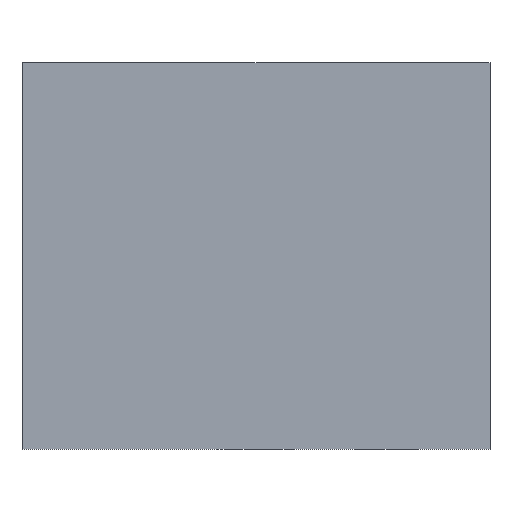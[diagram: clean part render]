
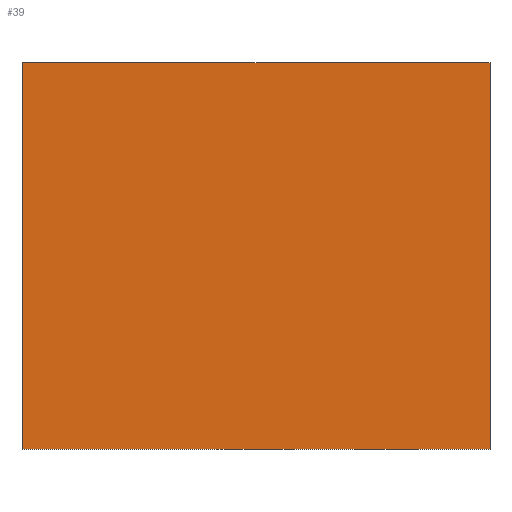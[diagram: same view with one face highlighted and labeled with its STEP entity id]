
A CAD part, front view. The second image highlights one B-rep face of the part: STEP entity #39.
In plain terms, the highlighted planar face has unit normal (0, -1, 0).
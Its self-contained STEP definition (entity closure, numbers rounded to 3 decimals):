
#39 = ADVANCED_FACE('',(#40),#54,.F.);
#40 = FACE_BOUND('',#41,.F.);
#41 = EDGE_LOOP('',(#42,#77,#105,#133));
#42 = ORIENTED_EDGE('',*,*,#43,.T.);
#43 = EDGE_CURVE('',#44,#46,#48,.T.);
#44 = VERTEX_POINT('',#45);
#45 = CARTESIAN_POINT('',(0.,0.,0.));
#46 = VERTEX_POINT('',#47);
#47 = CARTESIAN_POINT('',(0.,0.,22.3));
#48 = SURFACE_CURVE('',#49,(#53,#65),.PCURVE_S1.);
#49 = LINE('',#50,#51);
#50 = CARTESIAN_POINT('',(0.,0.,0.));
#51 = VECTOR('',#52,1.);
#52 = DIRECTION('',(0.,0.,1.));
#53 = PCURVE('',#54,#59);
#54 = PLANE('',#55);
#55 = AXIS2_PLACEMENT_3D('',#56,#57,#58);
#56 = CARTESIAN_POINT('',(0.,0.,0.));
#57 = DIRECTION('',(0.,1.,0.));
#58 = DIRECTION('',(1.,0.,0.));
#59 = DEFINITIONAL_REPRESENTATION('',(#60),#64);
#60 = LINE('',#61,#62);
#61 = CARTESIAN_POINT('',(0.,0.));
#62 = VECTOR('',#63,1.);
#63 = DIRECTION('',(0.,-1.));
#64 = ( GEOMETRIC_REPRESENTATION_CONTEXT(2) 
PARAMETRIC_REPRESENTATION_CONTEXT() REPRESENTATION_CONTEXT('2D SPACE',''
  ) );
#65 = PCURVE('',#66,#71);
#66 = PLANE('',#67);
#67 = AXIS2_PLACEMENT_3D('',#68,#69,#70);
#68 = CARTESIAN_POINT('',(0.,17.,0.));
#69 = DIRECTION('',(1.,0.,0.));
#70 = DIRECTION('',(0.,-1.,0.));
#71 = DEFINITIONAL_REPRESENTATION('',(#72),#76);
#72 = LINE('',#73,#74);
#73 = CARTESIAN_POINT('',(17.,0.));
#74 = VECTOR('',#75,1.);
#75 = DIRECTION('',(0.,-1.));
#76 = ( GEOMETRIC_REPRESENTATION_CONTEXT(2) 
PARAMETRIC_REPRESENTATION_CONTEXT() REPRESENTATION_CONTEXT('2D SPACE',''
  ) );
#77 = ORIENTED_EDGE('',*,*,#78,.T.);
#78 = EDGE_CURVE('',#46,#79,#81,.T.);
#79 = VERTEX_POINT('',#80);
#80 = CARTESIAN_POINT('',(27.,0.,22.3));
#81 = SURFACE_CURVE('',#82,(#86,#93),.PCURVE_S1.);
#82 = LINE('',#83,#84);
#83 = CARTESIAN_POINT('',(0.,0.,22.3));
#84 = VECTOR('',#85,1.);
#85 = DIRECTION('',(1.,0.,0.));
#86 = PCURVE('',#54,#87);
#87 = DEFINITIONAL_REPRESENTATION('',(#88),#92);
#88 = LINE('',#89,#90);
#89 = CARTESIAN_POINT('',(0.,-22.3));
#90 = VECTOR('',#91,1.);
#91 = DIRECTION('',(1.,0.));
#92 = ( GEOMETRIC_REPRESENTATION_CONTEXT(2) 
PARAMETRIC_REPRESENTATION_CONTEXT() REPRESENTATION_CONTEXT('2D SPACE',''
  ) );
#93 = PCURVE('',#94,#99);
#94 = PLANE('',#95);
#95 = AXIS2_PLACEMENT_3D('',#96,#97,#98);
#96 = CARTESIAN_POINT('',(13.5,8.5,22.3));
#97 = DIRECTION('',(0.,0.,1.));
#98 = DIRECTION('',(1.,0.,0.));
#99 = DEFINITIONAL_REPRESENTATION('',(#100),#104);
#100 = LINE('',#101,#102);
#101 = CARTESIAN_POINT('',(-13.5,-8.5));
#102 = VECTOR('',#103,1.);
#103 = DIRECTION('',(1.,0.));
#104 = ( GEOMETRIC_REPRESENTATION_CONTEXT(2) 
PARAMETRIC_REPRESENTATION_CONTEXT() REPRESENTATION_CONTEXT('2D SPACE',''
  ) );
#105 = ORIENTED_EDGE('',*,*,#106,.F.);
#106 = EDGE_CURVE('',#107,#79,#109,.T.);
#107 = VERTEX_POINT('',#108);
#108 = CARTESIAN_POINT('',(27.,0.,0.));
#109 = SURFACE_CURVE('',#110,(#114,#121),.PCURVE_S1.);
#110 = LINE('',#111,#112);
#111 = CARTESIAN_POINT('',(27.,0.,0.));
#112 = VECTOR('',#113,1.);
#113 = DIRECTION('',(0.,0.,1.));
#114 = PCURVE('',#54,#115);
#115 = DEFINITIONAL_REPRESENTATION('',(#116),#120);
#116 = LINE('',#117,#118);
#117 = CARTESIAN_POINT('',(27.,0.));
#118 = VECTOR('',#119,1.);
#119 = DIRECTION('',(0.,-1.));
#120 = ( GEOMETRIC_REPRESENTATION_CONTEXT(2) 
PARAMETRIC_REPRESENTATION_CONTEXT() REPRESENTATION_CONTEXT('2D SPACE',''
  ) );
#121 = PCURVE('',#122,#127);
#122 = PLANE('',#123);
#123 = AXIS2_PLACEMENT_3D('',#124,#125,#126);
#124 = CARTESIAN_POINT('',(27.,0.,0.));
#125 = DIRECTION('',(-1.,0.,0.));
#126 = DIRECTION('',(0.,1.,0.));
#127 = DEFINITIONAL_REPRESENTATION('',(#128),#132);
#128 = LINE('',#129,#130);
#129 = CARTESIAN_POINT('',(0.,0.));
#130 = VECTOR('',#131,1.);
#131 = DIRECTION('',(0.,-1.));
#132 = ( GEOMETRIC_REPRESENTATION_CONTEXT(2) 
PARAMETRIC_REPRESENTATION_CONTEXT() REPRESENTATION_CONTEXT('2D SPACE',''
  ) );
#133 = ORIENTED_EDGE('',*,*,#134,.F.);
#134 = EDGE_CURVE('',#44,#107,#135,.T.);
#135 = SURFACE_CURVE('',#136,(#140,#147),.PCURVE_S1.);
#136 = LINE('',#137,#138);
#137 = CARTESIAN_POINT('',(0.,0.,0.));
#138 = VECTOR('',#139,1.);
#139 = DIRECTION('',(1.,0.,0.));
#140 = PCURVE('',#54,#141);
#141 = DEFINITIONAL_REPRESENTATION('',(#142),#146);
#142 = LINE('',#143,#144);
#143 = CARTESIAN_POINT('',(0.,0.));
#144 = VECTOR('',#145,1.);
#145 = DIRECTION('',(1.,0.));
#146 = ( GEOMETRIC_REPRESENTATION_CONTEXT(2) 
PARAMETRIC_REPRESENTATION_CONTEXT() REPRESENTATION_CONTEXT('2D SPACE',''
  ) );
#147 = PCURVE('',#148,#153);
#148 = PLANE('',#149);
#149 = AXIS2_PLACEMENT_3D('',#150,#151,#152);
#150 = CARTESIAN_POINT('',(13.5,8.5,0.));
#151 = DIRECTION('',(0.,0.,1.));
#152 = DIRECTION('',(1.,0.,0.));
#153 = DEFINITIONAL_REPRESENTATION('',(#154),#158);
#154 = LINE('',#155,#156);
#155 = CARTESIAN_POINT('',(-13.5,-8.5));
#156 = VECTOR('',#157,1.);
#157 = DIRECTION('',(1.,0.));
#158 = ( GEOMETRIC_REPRESENTATION_CONTEXT(2) 
PARAMETRIC_REPRESENTATION_CONTEXT() REPRESENTATION_CONTEXT('2D SPACE',''
  ) );
